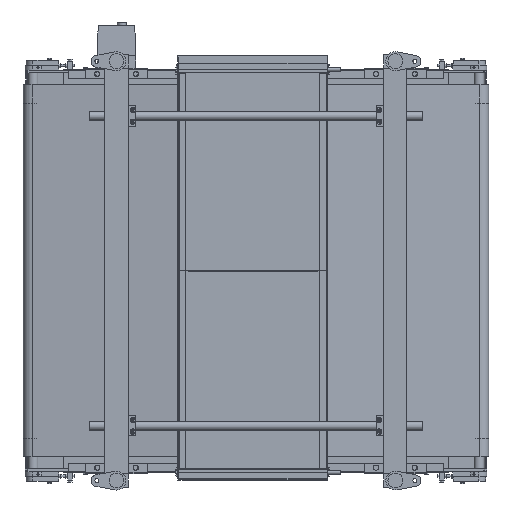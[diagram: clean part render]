
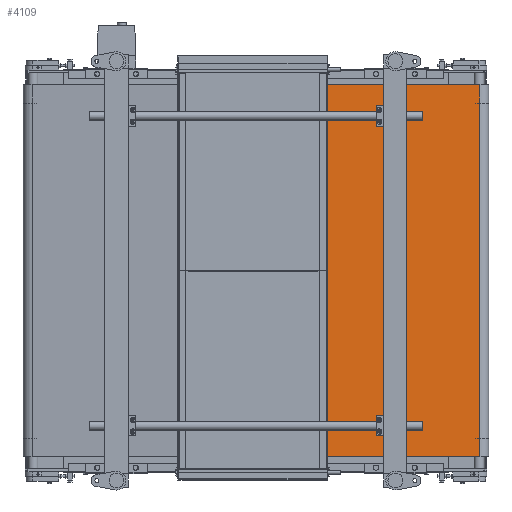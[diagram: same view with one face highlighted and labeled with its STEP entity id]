
A CAD part, front view. The second image highlights one B-rep face of the part: STEP entity #4109.
In plain terms, the highlighted planar face has unit normal (0.081, -0.997, 0).
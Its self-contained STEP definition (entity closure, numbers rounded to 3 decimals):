
#4109=ADVANCED_FACE('',(#22932),#22931,.T.);
#22931=PLANE('',#33772);
#22932=FACE_OUTER_BOUND('',#33773,.T.);
#33769=CARTESIAN_POINT('',(784.828,-115.661,-610.));
#33770=DIRECTION('',(0.081,-0.997,0.));
#33771=DIRECTION('',(0.997,0.081,0.));
#33772=AXIS2_PLACEMENT_3D('',#33769,#33770,#33771);
#33773=EDGE_LOOP('',(#43022,#43023,#43024,#43025));
#43022=ORIENTED_EDGE('',*,*,#47741,.F.);
#43023=ORIENTED_EDGE('',*,*,#47742,.F.);
#43024=ORIENTED_EDGE('',*,*,#47743,.T.);
#43025=ORIENTED_EDGE('',*,*,#47739,.T.);
#47739=EDGE_CURVE('',#77482,#77475,#77483,.T.);
#47741=EDGE_CURVE('',#77495,#77475,#77496,.T.);
#47742=EDGE_CURVE('',#77502,#77495,#77503,.T.);
#47743=EDGE_CURVE('',#77502,#77482,#77509,.T.);
#77475=VERTEX_POINT('',#96316);
#77482=VERTEX_POINT('',#96321);
#77483=LINE('',#96322,#96323);
#77495=VERTEX_POINT('',#96329);
#77496=LINE('',#96330,#96331);
#77502=VERTEX_POINT('',#96333);
#77503=LINE('',#96334,#96335);
#77509=LINE('',#96337,#96338);
#96316=CARTESIAN_POINT('',(794.795,-114.85,-600.));
#96321=CARTESIAN_POINT('',(794.795,-114.85,600.));
#96322=CARTESIAN_POINT('',(794.795,-114.85,600.));
#96323=VECTOR('',#96324,1200.);
#96324=DIRECTION('',(0.,0.,-1.));
#96329=CARTESIAN_POINT('',(1472.786,-59.647,-600.));
#96330=CARTESIAN_POINT('',(1472.786,-59.647,-600.));
#96331=VECTOR('',#96332,680.235);
#96332=DIRECTION('',(-0.997,-0.081,0.));
#96333=CARTESIAN_POINT('',(1472.786,-59.647,600.));
#96334=CARTESIAN_POINT('',(1472.786,-59.647,600.));
#96335=VECTOR('',#96336,1200.);
#96336=DIRECTION('',(0.,0.,-1.));
#96337=CARTESIAN_POINT('',(1472.786,-59.647,600.));
#96338=VECTOR('',#96339,680.235);
#96339=DIRECTION('',(-0.997,-0.081,0.));
